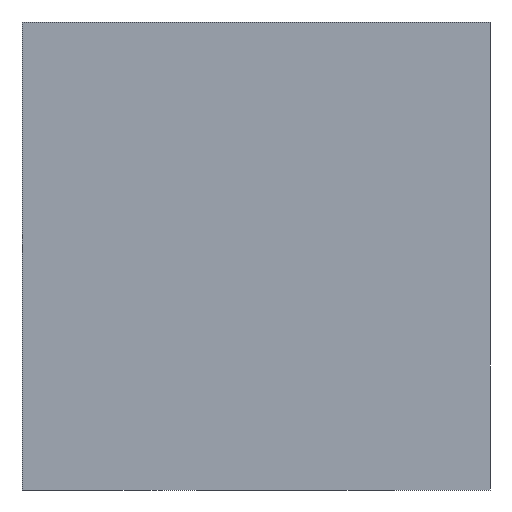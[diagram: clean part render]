
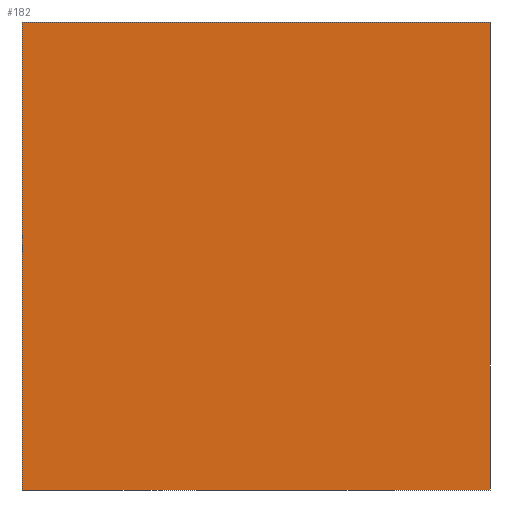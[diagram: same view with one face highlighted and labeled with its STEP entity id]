
A CAD part, left-side view. The second image highlights one B-rep face of the part: STEP entity #182.
In plain terms, the highlighted planar face has unit normal (-1, 0, 0).
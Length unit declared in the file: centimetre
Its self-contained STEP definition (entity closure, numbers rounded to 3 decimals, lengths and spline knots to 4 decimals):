
#3 = ORIENTED_EDGE ( 'NONE', *, *, #440, .T. ) ;
#7 = AXIS2_PLACEMENT_3D ( 'NONE', #31, #256, #217 ) ;
#31 = CARTESIAN_POINT ( 'NONE',  ( 0., 1000., 1000. ) ) ;
#59 = CARTESIAN_POINT ( 'NONE',  ( 0., 0., 0. ) ) ;
#62 = VECTOR ( 'NONE', #510, 100. ) ;
#99 = ORIENTED_EDGE ( 'NONE', *, *, #548, .T. ) ;
#105 = CARTESIAN_POINT ( 'NONE',  ( 0., 1000., 0. ) ) ;
#107 = EDGE_LOOP ( 'NONE', ( #99, #180, #143, #3 ) ) ;
#117 = LINE ( 'NONE', #105, #396 ) ;
#121 = EDGE_CURVE ( 'NONE', #424, #200, #218, .T. ) ;
#124 = LINE ( 'NONE', #446, #284 ) ;
#130 = EDGE_CURVE ( 'NONE', #200, #364, #374, .T. ) ;
#143 = ORIENTED_EDGE ( 'NONE', *, *, #121, .F. ) ;
#169 = FACE_OUTER_BOUND ( 'NONE', #107, .T. ) ;
#180 = ORIENTED_EDGE ( 'NONE', *, *, #130, .F. ) ;
#182 = ADVANCED_FACE ( 'NONE', ( #169 ), #540, .F. ) ;
#200 = VERTEX_POINT ( 'NONE', #414 ) ;
#217 = DIRECTION ( 'NONE',  ( 0., 0., -1. ) ) ;
#218 = LINE ( 'NONE', #221, #62 ) ;
#221 = CARTESIAN_POINT ( 'NONE',  ( 0., 1000., 1000. ) ) ;
#246 = CARTESIAN_POINT ( 'NONE',  ( 0., 1000., 0. ) ) ;
#256 = DIRECTION ( 'NONE',  ( 1., 0., 0. ) ) ;
#259 = DIRECTION ( 'NONE',  ( 0., 0., -1. ) ) ;
#284 = VECTOR ( 'NONE', #286, 100. ) ;
#286 = DIRECTION ( 'NONE',  ( 0., 0., -1. ) ) ;
#364 = VERTEX_POINT ( 'NONE', #59 ) ;
#374 = LINE ( 'NONE', #376, #386 ) ;
#376 = CARTESIAN_POINT ( 'NONE',  ( 0., 0., 1000. ) ) ;
#386 = VECTOR ( 'NONE', #259, 100. ) ;
#396 = VECTOR ( 'NONE', #482, 100. ) ;
#414 = CARTESIAN_POINT ( 'NONE',  ( 0., 0., 1000. ) ) ;
#424 = VERTEX_POINT ( 'NONE', #492 ) ;
#440 = EDGE_CURVE ( 'NONE', #424, #443, #124, .T. ) ;
#443 = VERTEX_POINT ( 'NONE', #246 ) ;
#446 = CARTESIAN_POINT ( 'NONE',  ( 0., 1000., 1000. ) ) ;
#482 = DIRECTION ( 'NONE',  ( 0., -1., 0. ) ) ;
#492 = CARTESIAN_POINT ( 'NONE',  ( 0., 1000., 1000. ) ) ;
#510 = DIRECTION ( 'NONE',  ( 0., -1., 0. ) ) ;
#540 = PLANE ( 'NONE',  #7 ) ;
#548 = EDGE_CURVE ( 'NONE', #443, #364, #117, .T. ) ;
